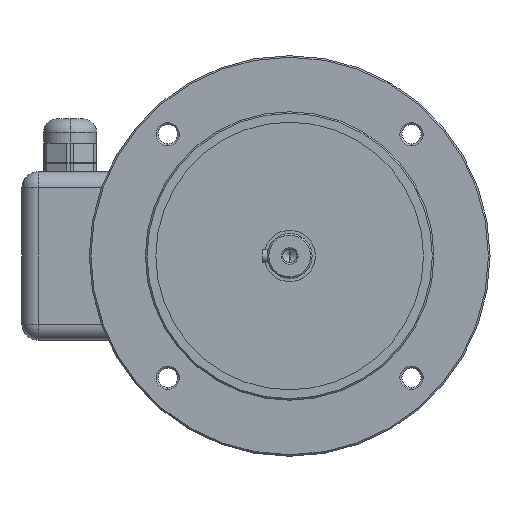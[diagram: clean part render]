
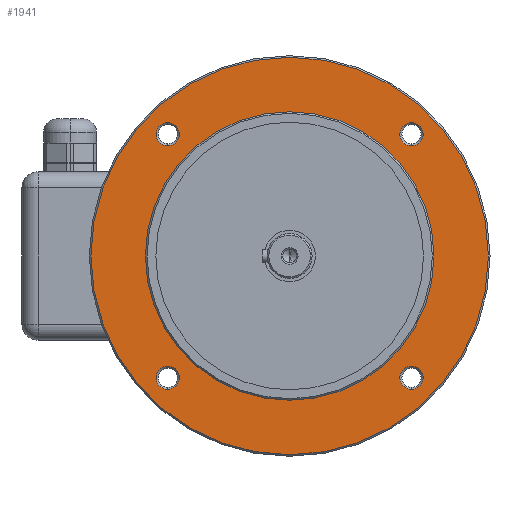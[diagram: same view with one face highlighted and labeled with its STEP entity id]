
A CAD part, left-side view. The second image highlights one B-rep face of the part: STEP entity #1941.
In plain terms, the highlighted planar face has unit normal (-1, 0, 0).
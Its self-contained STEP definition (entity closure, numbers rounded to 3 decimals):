
#68 = DIRECTION ( 'NONE',  ( 0., 0., 1. ) ) ;
#77 = EDGE_CURVE ( 'NONE', #8147, #12616, #8608, .T. ) ;
#466 = VERTEX_POINT ( 'NONE', #5827 ) ;
#478 = EDGE_CURVE ( 'NONE', #909, #9083, #3676, .T. ) ;
#524 = CARTESIAN_POINT ( 'NONE',  ( 0., 0., 124. ) ) ;
#616 = CARTESIAN_POINT ( 'NONE',  ( 0., 76.014, 76.014 ) ) ;
#634 = DIRECTION ( 'NONE',  ( 0., 0., 1. ) ) ;
#635 = CIRCLE ( 'NONE', #6627, 124. ) ;
#706 = CARTESIAN_POINT ( 'NONE',  ( 0., 0., 0. ) ) ;
#826 = CARTESIAN_POINT ( 'NONE',  ( 0., 0., 0. ) ) ;
#905 = CARTESIAN_POINT ( 'NONE',  ( 0., -76.014, -76.014 ) ) ;
#909 = VERTEX_POINT ( 'NONE', #10791 ) ;
#910 = EDGE_CURVE ( 'NONE', #6735, #12759, #5125, .T. ) ;
#976 = VERTEX_POINT ( 'NONE', #6249 ) ;
#1072 = EDGE_CURVE ( 'NONE', #8256, #976, #11195, .T. ) ;
#1656 = AXIS2_PLACEMENT_3D ( 'NONE', #2780, #6727, #9703 ) ;
#1701 = EDGE_LOOP ( 'NONE', ( #9746, #6524 ) ) ;
#1735 = EDGE_LOOP ( 'NONE', ( #2264, #3252 ) ) ;
#1869 = AXIS2_PLACEMENT_3D ( 'NONE', #10500, #10565, #5723 ) ;
#1941 = ADVANCED_FACE ( 'NONE', ( #12605, #5764, #3628, #11636, #6602, #3760 ), #4605, .F. ) ;
#2083 = CARTESIAN_POINT ( 'NONE',  ( 0., 76.014, -68.764 ) ) ;
#2138 = CARTESIAN_POINT ( 'NONE',  ( 0., -76.014, 83.264 ) ) ;
#2264 = ORIENTED_EDGE ( 'NONE', *, *, #3530, .T. ) ;
#2328 = CARTESIAN_POINT ( 'NONE',  ( 0., 76.014, -76.014 ) ) ;
#2522 = DIRECTION ( 'NONE',  ( -1., 0., 0. ) ) ;
#2608 = AXIS2_PLACEMENT_3D ( 'NONE', #11731, #3656, #6762 ) ;
#2648 = DIRECTION ( 'NONE',  ( 0., 0., 1. ) ) ;
#2780 = CARTESIAN_POINT ( 'NONE',  ( 0., -76.014, 76.014 ) ) ;
#2786 = DIRECTION ( 'NONE',  ( 0., 0., -1. ) ) ;
#2894 = ORIENTED_EDGE ( 'NONE', *, *, #1072, .F. ) ;
#3089 = DIRECTION ( 'NONE',  ( -1., 0., 0. ) ) ;
#3150 = ORIENTED_EDGE ( 'NONE', *, *, #8222, .F. ) ;
#3252 = ORIENTED_EDGE ( 'NONE', *, *, #910, .T. ) ;
#3368 = CARTESIAN_POINT ( 'NONE',  ( 0., 0., -124. ) ) ;
#3456 = AXIS2_PLACEMENT_3D ( 'NONE', #905, #4860, #68 ) ;
#3530 = EDGE_CURVE ( 'NONE', #12759, #6735, #635, .T. ) ;
#3569 = EDGE_CURVE ( 'NONE', #8297, #5833, #3952, .T. ) ;
#3578 = DIRECTION ( 'NONE',  ( -1., 0., 0. ) ) ;
#3587 = CARTESIAN_POINT ( 'NONE',  ( 0., -76.014, 68.764 ) ) ;
#3628 = FACE_BOUND ( 'NONE', #7991, .T. ) ;
#3656 = DIRECTION ( 'NONE',  ( -1., 0., 0. ) ) ;
#3676 = CIRCLE ( 'NONE', #3456, 7.25 ) ;
#3760 = FACE_BOUND ( 'NONE', #3968, .T. ) ;
#3952 = CIRCLE ( 'NONE', #6426, 7.25 ) ;
#3968 = EDGE_LOOP ( 'NONE', ( #3150, #9027 ) ) ;
#4067 = VERTEX_POINT ( 'NONE', #4820 ) ;
#4242 = AXIS2_PLACEMENT_3D ( 'NONE', #2328, #2522, #2648 ) ;
#4517 = AXIS2_PLACEMENT_3D ( 'NONE', #9709, #7707, #2786 ) ;
#4605 = PLANE ( 'NONE',  #4517 ) ;
#4640 = CARTESIAN_POINT ( 'NONE',  ( 0., -76.014, 76.014 ) ) ;
#4659 = DIRECTION ( 'NONE',  ( -1., 0., 0. ) ) ;
#4781 = DIRECTION ( 'NONE',  ( 0., 0., -1. ) ) ;
#4820 = CARTESIAN_POINT ( 'NONE',  ( 0., 0., -90. ) ) ;
#4860 = DIRECTION ( 'NONE',  ( -1., 0., 0. ) ) ;
#5125 = CIRCLE ( 'NONE', #9042, 124. ) ;
#5363 = DIRECTION ( 'NONE',  ( -1., 0., 0. ) ) ;
#5678 = DIRECTION ( 'NONE',  ( -1., 0., 0. ) ) ;
#5717 = CIRCLE ( 'NONE', #7572, 7.25 ) ;
#5723 = DIRECTION ( 'NONE',  ( 0., 0., 1. ) ) ;
#5732 = EDGE_CURVE ( 'NONE', #9083, #909, #5717, .T. ) ;
#5764 = FACE_BOUND ( 'NONE', #7138, .T. ) ;
#5827 = CARTESIAN_POINT ( 'NONE',  ( 0., 0., 90. ) ) ;
#5833 = VERTEX_POINT ( 'NONE', #2138 ) ;
#6249 = CARTESIAN_POINT ( 'NONE',  ( 0., 76.014, 83.264 ) ) ;
#6426 = AXIS2_PLACEMENT_3D ( 'NONE', #4640, #9479, #6448 ) ;
#6448 = DIRECTION ( 'NONE',  ( 0., 0., 1. ) ) ;
#6524 = ORIENTED_EDGE ( 'NONE', *, *, #77, .F. ) ;
#6602 = FACE_BOUND ( 'NONE', #1701, .T. ) ;
#6627 = AXIS2_PLACEMENT_3D ( 'NONE', #12123, #3089, #7034 ) ;
#6727 = DIRECTION ( 'NONE',  ( -1., 0., 0. ) ) ;
#6731 = CIRCLE ( 'NONE', #4242, 7.25 ) ;
#6735 = VERTEX_POINT ( 'NONE', #524 ) ;
#6762 = DIRECTION ( 'NONE',  ( 0., 0., 1. ) ) ;
#6786 = ORIENTED_EDGE ( 'NONE', *, *, #12301, .F. ) ;
#7034 = DIRECTION ( 'NONE',  ( 0., 0., -1. ) ) ;
#7134 = EDGE_CURVE ( 'NONE', #12616, #8147, #6731, .T. ) ;
#7138 = EDGE_LOOP ( 'NONE', ( #12543, #11343 ) ) ;
#7343 = CIRCLE ( 'NONE', #11678, 7.25 ) ;
#7415 = EDGE_CURVE ( 'NONE', #4067, #466, #11060, .T. ) ;
#7572 = AXIS2_PLACEMENT_3D ( 'NONE', #11360, #5363, #634 ) ;
#7707 = DIRECTION ( 'NONE',  ( 1., 0., 0. ) ) ;
#7983 = AXIS2_PLACEMENT_3D ( 'NONE', #706, #4659, #8603 ) ;
#7991 = EDGE_LOOP ( 'NONE', ( #10113, #12474 ) ) ;
#8147 = VERTEX_POINT ( 'NONE', #9205 ) ;
#8222 = EDGE_CURVE ( 'NONE', #466, #4067, #11762, .T. ) ;
#8256 = VERTEX_POINT ( 'NONE', #9537 ) ;
#8297 = VERTEX_POINT ( 'NONE', #3587 ) ;
#8383 = DIRECTION ( 'NONE',  ( 0., 0., 1. ) ) ;
#8433 = CARTESIAN_POINT ( 'NONE',  ( 0., 76.014, 76.014 ) ) ;
#8603 = DIRECTION ( 'NONE',  ( 0., 0., 1. ) ) ;
#8608 = CIRCLE ( 'NONE', #2608, 7.25 ) ;
#8714 = EDGE_CURVE ( 'NONE', #5833, #8297, #10945, .T. ) ;
#8721 = CARTESIAN_POINT ( 'NONE',  ( 0., -76.014, -83.264 ) ) ;
#9027 = ORIENTED_EDGE ( 'NONE', *, *, #7415, .F. ) ;
#9042 = AXIS2_PLACEMENT_3D ( 'NONE', #826, #5678, #4781 ) ;
#9083 = VERTEX_POINT ( 'NONE', #8721 ) ;
#9205 = CARTESIAN_POINT ( 'NONE',  ( 0., 76.014, -83.264 ) ) ;
#9329 = DIRECTION ( 'NONE',  ( 0., 0., 1. ) ) ;
#9345 = AXIS2_PLACEMENT_3D ( 'NONE', #616, #12312, #8383 ) ;
#9479 = DIRECTION ( 'NONE',  ( -1., 0., 0. ) ) ;
#9537 = CARTESIAN_POINT ( 'NONE',  ( 0., 76.014, 68.764 ) ) ;
#9703 = DIRECTION ( 'NONE',  ( 0., 0., 1. ) ) ;
#9709 = CARTESIAN_POINT ( 'NONE',  ( 0., 90., 0. ) ) ;
#9746 = ORIENTED_EDGE ( 'NONE', *, *, #7134, .F. ) ;
#10113 = ORIENTED_EDGE ( 'NONE', *, *, #8714, .F. ) ;
#10500 = CARTESIAN_POINT ( 'NONE',  ( 0., 0., 0. ) ) ;
#10565 = DIRECTION ( 'NONE',  ( -1., 0., 0. ) ) ;
#10791 = CARTESIAN_POINT ( 'NONE',  ( 0., -76.014, -68.764 ) ) ;
#10945 = CIRCLE ( 'NONE', #1656, 7.25 ) ;
#11060 = CIRCLE ( 'NONE', #7983, 90. ) ;
#11149 = EDGE_LOOP ( 'NONE', ( #6786, #2894 ) ) ;
#11195 = CIRCLE ( 'NONE', #9345, 7.25 ) ;
#11343 = ORIENTED_EDGE ( 'NONE', *, *, #5732, .F. ) ;
#11360 = CARTESIAN_POINT ( 'NONE',  ( 0., -76.014, -76.014 ) ) ;
#11636 = FACE_BOUND ( 'NONE', #11149, .T. ) ;
#11678 = AXIS2_PLACEMENT_3D ( 'NONE', #8433, #3578, #9329 ) ;
#11731 = CARTESIAN_POINT ( 'NONE',  ( 0., 76.014, -76.014 ) ) ;
#11762 = CIRCLE ( 'NONE', #1869, 90. ) ;
#12123 = CARTESIAN_POINT ( 'NONE',  ( 0., 0., 0. ) ) ;
#12301 = EDGE_CURVE ( 'NONE', #976, #8256, #7343, .T. ) ;
#12312 = DIRECTION ( 'NONE',  ( -1., 0., 0. ) ) ;
#12474 = ORIENTED_EDGE ( 'NONE', *, *, #3569, .F. ) ;
#12543 = ORIENTED_EDGE ( 'NONE', *, *, #478, .F. ) ;
#12605 = FACE_OUTER_BOUND ( 'NONE', #1735, .T. ) ;
#12616 = VERTEX_POINT ( 'NONE', #2083 ) ;
#12759 = VERTEX_POINT ( 'NONE', #3368 ) ;
